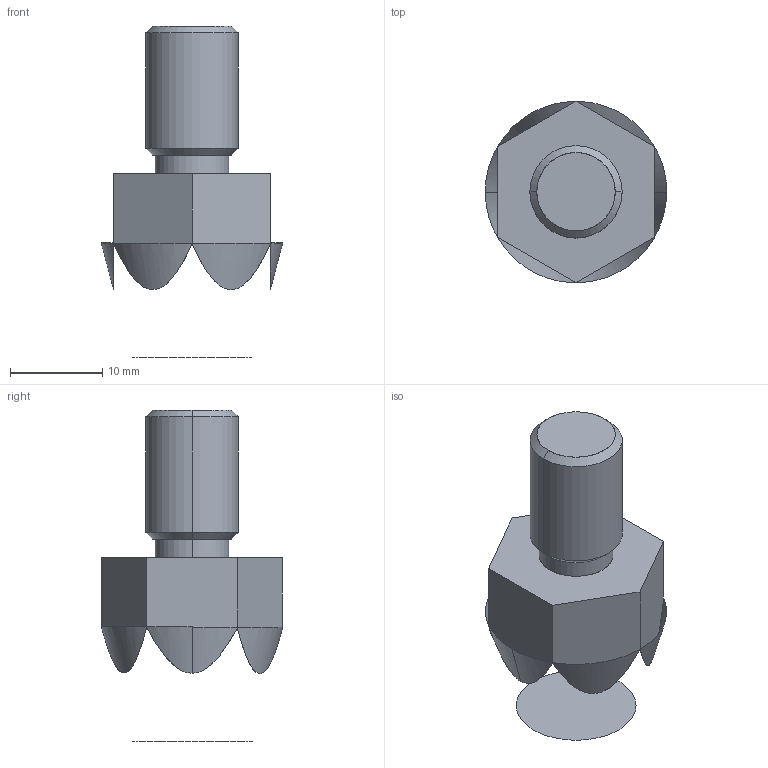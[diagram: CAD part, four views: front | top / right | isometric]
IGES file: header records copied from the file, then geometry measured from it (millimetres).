
Start section: SolidWorks IGES FILE using analytic representation for surfaces
Global section: file name: C:\WIX2\Positioning\3600\3600W101.igs; native system: SolidWorks 2003 by SolidWorks Corporation; preprocessor: Version 5.3; author: Joan; date: 030722.164501; units: millimetre
Bounding box: 19.7 x 19.64 x 36 mm (x, y, z)
Surface area: 1747.6 mm2 (no closed solid volume)
Topology: 0 solids, 0 shells, 20 faces, 336 edges, 334 vertices
Faces by surface type: revolution 10, bspline 10
